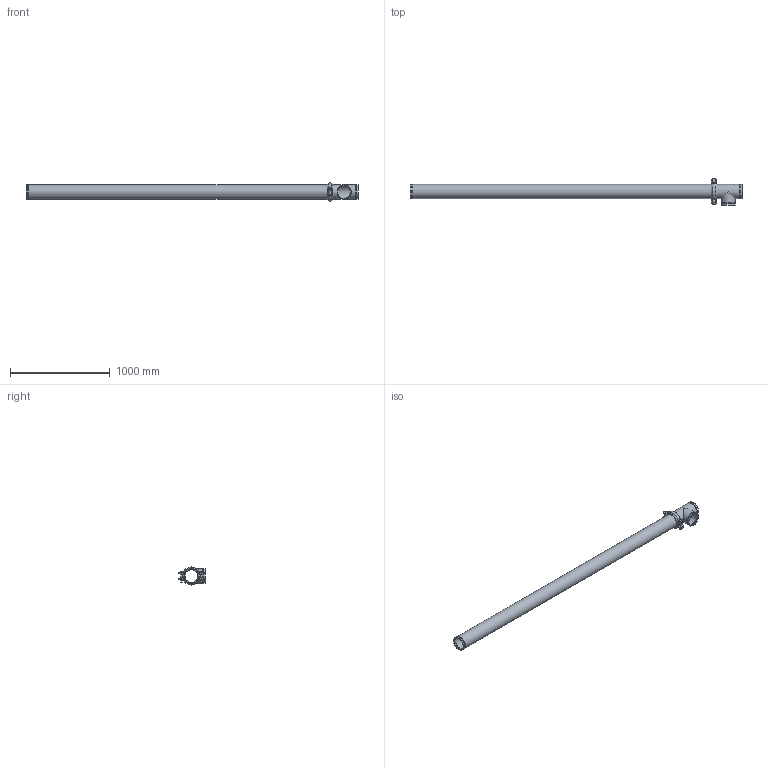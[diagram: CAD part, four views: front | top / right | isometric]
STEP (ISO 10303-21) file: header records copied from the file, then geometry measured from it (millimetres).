
FILE_DESCRIPTION(/* description */ ('VIC LONG RUN FITTING No R15 (OGS)','CAx-IF Rec.Pracs.---Representation and Presentation of Product Manufacturing Information (PMI)---4.0---2014-10-13'),/* implementation_level */ '2;1');
FILE_NAME(/* name */ 'C:\Users\Vjadhav\AppData\Roaming\Autodesk\ApplicationPlugins\Back Up\Victaulic_IPS_Long Run Fittings_No R15 (OGS)\Victaulic_IPS_Long Run Fittings_No R15 (OGS)_5 (125).stp',/* time_stamp */ '2020-10-06T19:04:07+06:00',/* author */ ('Vjadhav'),/* organization */ ('Victaulic'),/* preprocessor_version */ 'ST-DEVELOPER v17.2',/* originating_system */ 'Autodesk Inventor 2019',/* authorisation */ '');
FILE_SCHEMA (('AP242_MANAGED_MODEL_BASED_3D_ENGINEERING_MIM_LF { 1 0 10303 442 1 1 4 }'));
Length unit declared in the file: inch
Products named in the file (4): R15-05.0; 020-05.0; 107N-05.0; Pipe_R13-05.0
Assembly tree (3 placements, depth 2):
  R15-05.0
    020-05.0
    107N-05.0
    Pipe_R13-05.0
Bounding box: 3331.21 x 269.88 x 180.89 mm (x, y, z)
Volume: 9946526.3 mm3; surface area: 2990812.2 mm2
Topology: 3 solids, 3 shells, 156 faces, 407 edges, 276 vertices
Faces by surface type: plane 65, cylinder 63, bspline 16, torus 6, cone 4, sphere 2
Full cylindrical faces by diameter (mm): 15.875 x4, 27.381 x2, 128.194 x3, 128.6 x1, 137.033 x5, 141.3 x10
Entity records: 5807 total; most frequent: CARTESIAN_POINT 1520, DIRECTION 867, ORIENTED_EDGE 814, EDGE_CURVE 407, AXIS2_PLACEMENT_3D 345, VERTEX_POINT 276, EDGE_LOOP 187, LINE 177
